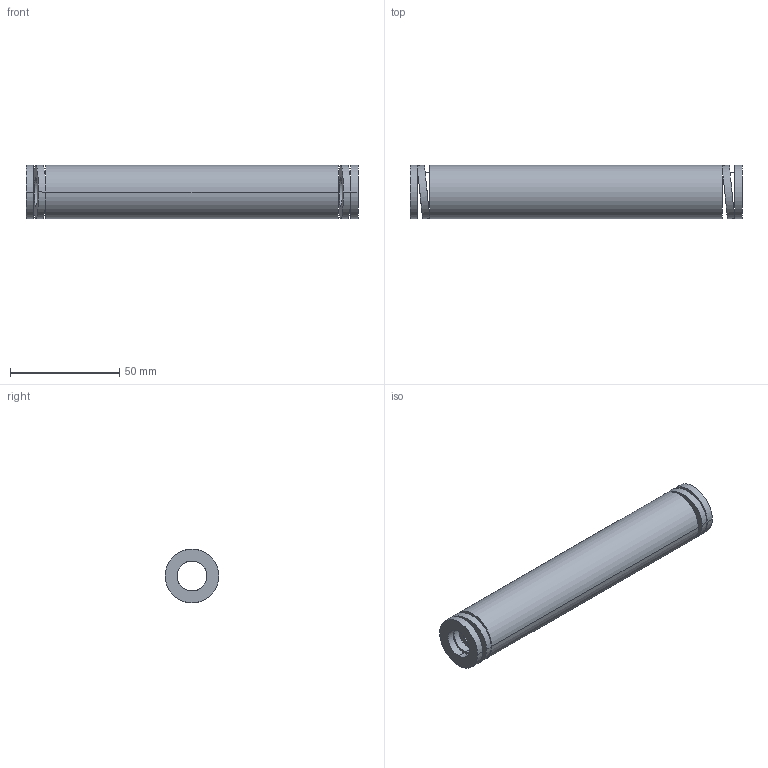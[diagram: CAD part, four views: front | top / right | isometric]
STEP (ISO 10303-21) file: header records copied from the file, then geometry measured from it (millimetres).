
FILE_DESCRIPTION(('CATIA V5 STEP Exchange'),'2;1');
FILE_NAME('C:\Users\Utente\Desktop\IO LAVORO\3D X SITO CF\X SITO\3D files 392B\392-B25-152.stp','2021-08-13T07:43:01+00:00',('none'),('none'),'CATIA Version 5 Release 20 GA (IN-10)','CATIA V5 STEP AP203','none');
FILE_SCHEMA(('CONFIG_CONTROL_DESIGN'));
Length unit declared in the file: millimetre
Products named in the file (1): 392-B25-152
Bounding box: 152 x 24.71 x 24.5 mm (x, y, z)
Volume: 47616.5 mm3; surface area: 20879.1 mm2
Topology: 1 solids, 1 shells, 38 faces, 92 edges, 64 vertices
Faces by surface type: cylinder 28, plane 10
Entity records: 1578 total; most frequent: CARTESIAN_POINT 691, ORIENTED_EDGE 184, DIRECTION 128, EDGE_CURVE 92, VERTEX_POINT 64, AXIS2_PLACEMENT_3D 63, EDGE_LOOP 56, B_SPLINE_CURVE_WITH_KNOTS 40
